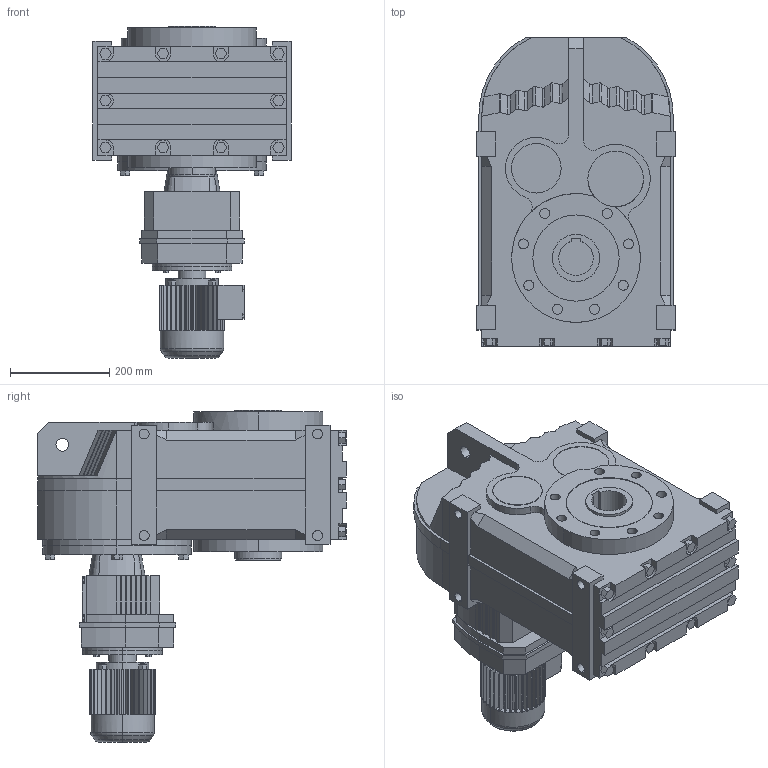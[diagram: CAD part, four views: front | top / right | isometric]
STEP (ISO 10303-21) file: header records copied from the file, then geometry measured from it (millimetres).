
FILE_DESCRIPTION(('Open CASCADE Model'),'2;1');
FILE_NAME('Open CASCADE Shape Model','2021-07-24T10:52:04',('Author'),( 'Open CASCADE'),'Open CASCADE STEP processor 6.3','Open CASCADE 6.3' ,'Unknown');
FILE_SCHEMA(('AUTOMOTIVE_DESIGN_CC2 { 1 2 10303 214 -1 1 5 4 }'));
Length unit declared in the file: millimetre
Products named in the file (5): 1_FA97R57DR63; FA27‵157_97.step; 萇儂_160-DR63-185-240-132-105.step; R_97_57.step; す瑩諾陑粣F_97.step
Assembly tree (4 placements, depth 2):
  1_FA97R57DR63
    FA27‵157_97.step
    萇儂_160-DR63-185-240-132-105.step
    R_97_57.step
    す瑩諾陑粣F_97.step
Bounding box: 400 x 623 x 670 mm (x, y, z)
Volume: 59402675.8 mm3; surface area: 1836103.5 mm2
Topology: 4 solids, 4 shells, 1005 faces, 2661 edges, 1742 vertices
Faces by surface type: plane 752, cylinder 223, bspline 16, cone 10, torus 4
Entity records: 67259 total; most frequent: CARTESIAN_POINT 15637, DIRECTION 9132, LINE 5479, VECTOR 5479, ORIENTED_EDGE 5322, PCURVE 5322, DEFINITIONAL_REPRESENTATION 5322, EDGE_CURVE 2661
